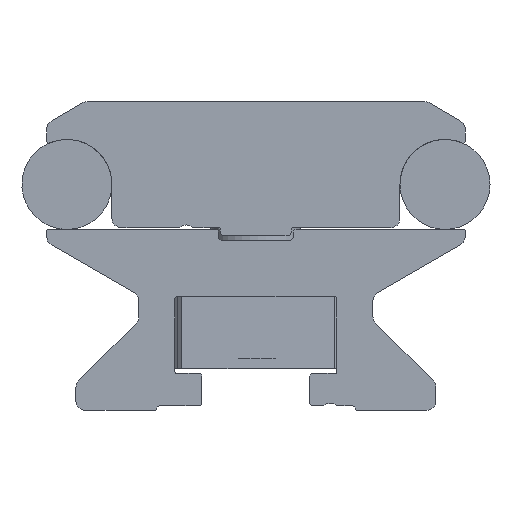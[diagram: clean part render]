
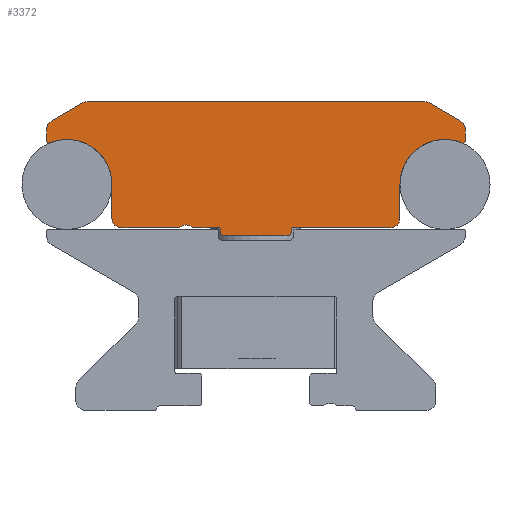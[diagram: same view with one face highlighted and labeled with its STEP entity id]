
A CAD part, left-side view. The second image highlights one B-rep face of the part: STEP entity #3372.
In plain terms, the highlighted planar face has unit normal (-1, 0, 0).
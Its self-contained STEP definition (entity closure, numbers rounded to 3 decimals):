
#105=CIRCLE('',#3601,0.5);
#106=CIRCLE('',#3603,0.5);
#121=CIRCLE('',#3659,1.);
#130=CIRCLE('',#3670,1.);
#132=CIRCLE('',#3674,1.);
#134=CIRCLE('',#3678,0.2);
#136=CIRCLE('',#3681,5.);
#138=CIRCLE('',#3685,1.);
#140=CIRCLE('',#3689,1.);
#148=CIRCLE('',#3699,0.2);
#152=CIRCLE('',#3709,0.2);
#161=CIRCLE('',#3720,1.);
#163=CIRCLE('',#3724,5.);
#165=CIRCLE('',#3727,0.2);
#167=CIRCLE('',#3731,1.);
#288=PLANE('',#3733);
#744=ORIENTED_EDGE('',*,*,#1531,.T.);
#745=ORIENTED_EDGE('',*,*,#1542,.T.);
#746=ORIENTED_EDGE('',*,*,#1545,.T.);
#747=ORIENTED_EDGE('',*,*,#1548,.T.);
#748=ORIENTED_EDGE('',*,*,#1551,.T.);
#749=ORIENTED_EDGE('',*,*,#1554,.T.);
#750=ORIENTED_EDGE('',*,*,#1557,.T.);
#751=ORIENTED_EDGE('',*,*,#1560,.T.);
#752=ORIENTED_EDGE('',*,*,#1563,.T.);
#753=ORIENTED_EDGE('',*,*,#1566,.T.);
#754=ORIENTED_EDGE('',*,*,#1569,.T.);
#755=ORIENTED_EDGE('',*,*,#1572,.T.);
#756=ORIENTED_EDGE('',*,*,#1578,.T.);
#757=ORIENTED_EDGE('',*,*,#1585,.T.);
#758=ORIENTED_EDGE('',*,*,#1587,.T.);
#759=ORIENTED_EDGE('',*,*,#1400,.T.);
#760=ORIENTED_EDGE('',*,*,#1591,.T.);
#761=ORIENTED_EDGE('',*,*,#1404,.T.);
#762=ORIENTED_EDGE('',*,*,#1407,.T.);
#763=ORIENTED_EDGE('',*,*,#1599,.T.);
#764=ORIENTED_EDGE('',*,*,#1606,.T.);
#765=ORIENTED_EDGE('',*,*,#1612,.T.);
#766=ORIENTED_EDGE('',*,*,#1615,.T.);
#767=ORIENTED_EDGE('',*,*,#1618,.T.);
#768=ORIENTED_EDGE('',*,*,#1621,.T.);
#769=ORIENTED_EDGE('',*,*,#1624,.T.);
#770=ORIENTED_EDGE('',*,*,#1627,.T.);
#771=ORIENTED_EDGE('',*,*,#1629,.T.);
#1400=EDGE_CURVE('',#1880,#1883,#105,.T.);
#1404=EDGE_CURVE('',#1884,#1887,#106,.T.);
#1407=EDGE_CURVE('',#1887,#1889,#2213,.T.);
#1531=EDGE_CURVE('',#1979,#1978,#121,.T.);
#1542=EDGE_CURVE('',#1978,#1988,#2284,.T.);
#1545=EDGE_CURVE('',#1988,#1990,#130,.T.);
#1548=EDGE_CURVE('',#1990,#1992,#2288,.T.);
#1551=EDGE_CURVE('',#1992,#1994,#132,.T.);
#1554=EDGE_CURVE('',#1994,#1996,#2292,.T.);
#1557=EDGE_CURVE('',#1996,#1998,#134,.T.);
#1560=EDGE_CURVE('',#1998,#2000,#136,.T.);
#1563=EDGE_CURVE('',#2000,#2002,#2297,.T.);
#1566=EDGE_CURVE('',#2002,#2004,#138,.T.);
#1569=EDGE_CURVE('',#2004,#2006,#2301,.T.);
#1572=EDGE_CURVE('',#2006,#2008,#140,.T.);
#1578=EDGE_CURVE('',#2008,#2010,#2304,.T.);
#1585=EDGE_CURVE('',#2010,#2012,#148,.T.);
#1587=EDGE_CURVE('',#2012,#1880,#2308,.T.);
#1591=EDGE_CURVE('',#1883,#1884,#2309,.T.);
#1599=EDGE_CURVE('',#1889,#2016,#152,.T.);
#1606=EDGE_CURVE('',#2016,#2018,#2316,.T.);
#1612=EDGE_CURVE('',#2018,#2020,#161,.T.);
#1615=EDGE_CURVE('',#2020,#2022,#2320,.T.);
#1618=EDGE_CURVE('',#2022,#2024,#163,.T.);
#1621=EDGE_CURVE('',#2024,#2026,#165,.T.);
#1624=EDGE_CURVE('',#2026,#2028,#2325,.T.);
#1627=EDGE_CURVE('',#2028,#2030,#167,.T.);
#1629=EDGE_CURVE('',#2030,#1979,#2328,.T.);
#1880=VERTEX_POINT('',#5024);
#1883=VERTEX_POINT('',#5033);
#1884=VERTEX_POINT('',#5037);
#1887=VERTEX_POINT('',#5046);
#1889=VERTEX_POINT('',#5052);
#1978=VERTEX_POINT('',#5451);
#1979=VERTEX_POINT('',#5453);
#1988=VERTEX_POINT('',#5473);
#1990=VERTEX_POINT('',#5479);
#1992=VERTEX_POINT('',#5485);
#1994=VERTEX_POINT('',#5491);
#1996=VERTEX_POINT('',#5497);
#1998=VERTEX_POINT('',#5503);
#2000=VERTEX_POINT('',#5509);
#2002=VERTEX_POINT('',#5515);
#2004=VERTEX_POINT('',#5521);
#2006=VERTEX_POINT('',#5527);
#2008=VERTEX_POINT('',#5533);
#2010=VERTEX_POINT('',#5542);
#2012=VERTEX_POINT('',#5555);
#2016=VERTEX_POINT('',#5590);
#2018=VERTEX_POINT('',#5600);
#2020=VERTEX_POINT('',#5609);
#2022=VERTEX_POINT('',#5615);
#2024=VERTEX_POINT('',#5621);
#2026=VERTEX_POINT('',#5627);
#2028=VERTEX_POINT('',#5633);
#2030=VERTEX_POINT('',#5639);
#2213=LINE('',#5053,#2491);
#2284=LINE('',#5474,#2562);
#2288=LINE('',#5486,#2566);
#2292=LINE('',#5498,#2570);
#2297=LINE('',#5516,#2575);
#2301=LINE('',#5528,#2579);
#2304=LINE('',#5543,#2582);
#2308=LINE('',#5559,#2586);
#2309=LINE('',#5569,#2587);
#2316=LINE('',#5601,#2594);
#2320=LINE('',#5616,#2598);
#2325=LINE('',#5634,#2603);
#2328=LINE('',#5643,#2606);
#2491=VECTOR('',#3998,1000.);
#2562=VECTOR('',#4195,1000.);
#2566=VECTOR('',#4207,1000.);
#2570=VECTOR('',#4219,1000.);
#2575=VECTOR('',#4238,1000.);
#2579=VECTOR('',#4250,1000.);
#2582=VECTOR('',#4269,1000.);
#2586=VECTOR('',#4285,1000.);
#2587=VECTOR('',#4294,1000.);
#2594=VECTOR('',#4321,1000.);
#2598=VECTOR('',#4339,1000.);
#2603=VECTOR('',#4358,1000.);
#2606=VECTOR('',#4369,1000.);
#2831=EDGE_LOOP('',(#744,#745,#746,#747,#748,#749,#750,#751,#752,#753,#754,
#755,#756,#757,#758,#759,#760,#761,#762,#763,#764,#765,#766,#767,#768,#769,
#770,#771));
#3059=FACE_BOUND('',#2831,.T.);
#3372=ADVANCED_FACE('',(#3059),#288,.T.);
#3601=AXIS2_PLACEMENT_3D('',#5034,#3986,#3987);
#3603=AXIS2_PLACEMENT_3D('',#5047,#3992,#3993);
#3659=AXIS2_PLACEMENT_3D('',#5452,#4174,#4175);
#3670=AXIS2_PLACEMENT_3D('',#5480,#4201,#4202);
#3674=AXIS2_PLACEMENT_3D('',#5492,#4213,#4214);
#3678=AXIS2_PLACEMENT_3D('',#5504,#4225,#4226);
#3681=AXIS2_PLACEMENT_3D('',#5510,#4232,#4233);
#3685=AXIS2_PLACEMENT_3D('',#5522,#4244,#4245);
#3689=AXIS2_PLACEMENT_3D('',#5534,#4256,#4257);
#3699=AXIS2_PLACEMENT_3D('',#5556,#4280,#4281);
#3709=AXIS2_PLACEMENT_3D('',#5591,#4307,#4308);
#3720=AXIS2_PLACEMENT_3D('',#5610,#4333,#4334);
#3724=AXIS2_PLACEMENT_3D('',#5622,#4345,#4346);
#3727=AXIS2_PLACEMENT_3D('',#5628,#4352,#4353);
#3731=AXIS2_PLACEMENT_3D('',#5640,#4364,#4365);
#3733=AXIS2_PLACEMENT_3D('',#5644,#4370,#4371);
#3986=DIRECTION('',(-1.,0.,0.));
#3987=DIRECTION('',(0.,-1.,0.));
#3992=DIRECTION('',(-1.,0.,0.));
#3993=DIRECTION('',(0.,1.,0.));
#3998=DIRECTION('',(0.,0.,1.));
#4174=DIRECTION('',(-1.,0.,0.));
#4175=DIRECTION('',(0.,1.,0.));
#4195=DIRECTION('',(0.,1.,0.));
#4201=DIRECTION('',(-1.,0.,0.));
#4202=DIRECTION('',(0.,1.,0.));
#4207=DIRECTION('',(0.,0.866,-0.5));
#4213=DIRECTION('',(-1.,0.,0.));
#4214=DIRECTION('',(0.,-1.,0.));
#4219=DIRECTION('',(0.,0.,-1.));
#4225=DIRECTION('',(-1.,0.,0.));
#4226=DIRECTION('',(0.,-1.,0.));
#4232=DIRECTION('',(1.,0.,0.));
#4233=DIRECTION('',(0.,1.,0.));
#4238=DIRECTION('',(0.,0.,-1.));
#4244=DIRECTION('',(-1.,0.,0.));
#4245=DIRECTION('',(0.,-1.,0.));
#4250=DIRECTION('',(0.,-1.,0.));
#4256=DIRECTION('',(1.,0.,0.));
#4257=DIRECTION('',(0.,1.,0.));
#4269=DIRECTION('',(0.,-1.,0.));
#4280=DIRECTION('',(1.,0.,0.));
#4281=DIRECTION('',(0.,1.,0.));
#4285=DIRECTION('',(0.,0.,-1.));
#4294=DIRECTION('',(0.,-1.,0.));
#4307=DIRECTION('',(1.,0.,0.));
#4308=DIRECTION('',(0.,1.,0.));
#4321=DIRECTION('',(0.,-1.,0.));
#4333=DIRECTION('',(-1.,0.,0.));
#4334=DIRECTION('',(0.,1.,0.));
#4339=DIRECTION('',(0.,0.,1.));
#4345=DIRECTION('',(1.,0.,0.));
#4346=DIRECTION('',(0.,1.,0.));
#4352=DIRECTION('',(-1.,0.,0.));
#4353=DIRECTION('',(0.,1.,0.));
#4358=DIRECTION('',(0.,0.,1.));
#4364=DIRECTION('',(-1.,0.,0.));
#4365=DIRECTION('',(0.,1.,0.));
#4369=DIRECTION('',(0.,0.866,0.5));
#4370=DIRECTION('',(-1.,0.,0.));
#4371=DIRECTION('',(0.,-1.,0.));
#5024=CARTESIAN_POINT('',(-1000.,153.34,114.744));
#5033=CARTESIAN_POINT('',(-1000.,152.84,114.244));
#5034=CARTESIAN_POINT('',(-1000.,152.84,114.744));
#5037=CARTESIAN_POINT('',(-1000.,145.94,114.244));
#5046=CARTESIAN_POINT('',(-1000.,145.44,114.744));
#5047=CARTESIAN_POINT('',(-1000.,145.94,114.744));
#5052=CARTESIAN_POINT('',(-1000.,145.44,114.944));
#5053=CARTESIAN_POINT('',(-1000.,145.44,114.744));
#5451=CARTESIAN_POINT('',(-1000.,130.64,129.144));
#5452=CARTESIAN_POINT('',(-1000.,130.64,128.144));
#5453=CARTESIAN_POINT('',(-1000.,130.14,129.01));
#5473=CARTESIAN_POINT('',(-1000.,168.14,129.144));
#5474=CARTESIAN_POINT('',(-1000.,130.64,129.144));
#5479=CARTESIAN_POINT('',(-1000.,168.64,129.01));
#5480=CARTESIAN_POINT('',(-1000.,168.14,128.144));
#5485=CARTESIAN_POINT('',(-1000.,172.14,126.989));
#5486=CARTESIAN_POINT('',(-1000.,168.64,129.01));
#5491=CARTESIAN_POINT('',(-1000.,172.64,126.123));
#5492=CARTESIAN_POINT('',(-1000.,171.64,126.123));
#5497=CARTESIAN_POINT('',(-1000.,172.64,124.723));
#5498=CARTESIAN_POINT('',(-1000.,172.64,126.123));
#5503=CARTESIAN_POINT('',(-1000.,172.361,124.539));
#5504=CARTESIAN_POINT('',(-1000.,172.44,124.723));
#5509=CARTESIAN_POINT('',(-1000.,165.39,119.944));
#5510=CARTESIAN_POINT('',(-1000.,170.39,119.944));
#5515=CARTESIAN_POINT('',(-1000.,165.39,116.144));
#5516=CARTESIAN_POINT('',(-1000.,165.39,119.944));
#5521=CARTESIAN_POINT('',(-1000.,164.39,115.144));
#5522=CARTESIAN_POINT('',(-1000.,164.39,116.144));
#5527=CARTESIAN_POINT('',(-1000.,157.854,115.144));
#5528=CARTESIAN_POINT('',(-1000.,164.39,115.144));
#5533=CARTESIAN_POINT('',(-1000.,156.426,115.144));
#5534=CARTESIAN_POINT('',(-1000.,157.14,114.444));
#5542=CARTESIAN_POINT('',(-1000.,153.54,115.144));
#5543=CARTESIAN_POINT('',(-1000.,156.426,115.144));
#5555=CARTESIAN_POINT('',(-1000.,153.34,114.944));
#5556=CARTESIAN_POINT('',(-1000.,153.54,114.944));
#5559=CARTESIAN_POINT('',(-1000.,153.34,114.944));
#5569=CARTESIAN_POINT('',(-1000.,152.84,114.244));
#5590=CARTESIAN_POINT('',(-1000.,145.24,115.144));
#5591=CARTESIAN_POINT('',(-1000.,145.24,114.944));
#5600=CARTESIAN_POINT('',(-1000.,134.39,115.144));
#5601=CARTESIAN_POINT('',(-1000.,145.24,115.144));
#5609=CARTESIAN_POINT('',(-1000.,133.39,116.144));
#5610=CARTESIAN_POINT('',(-1000.,134.39,116.144));
#5615=CARTESIAN_POINT('',(-1000.,133.39,119.944));
#5616=CARTESIAN_POINT('',(-1000.,133.39,116.144));
#5621=CARTESIAN_POINT('',(-1000.,126.419,124.539));
#5622=CARTESIAN_POINT('',(-1000.,128.39,119.944));
#5627=CARTESIAN_POINT('',(-1000.,126.14,124.723));
#5628=CARTESIAN_POINT('',(-1000.,126.34,124.723));
#5633=CARTESIAN_POINT('',(-1000.,126.14,126.123));
#5634=CARTESIAN_POINT('',(-1000.,126.14,124.723));
#5639=CARTESIAN_POINT('',(-1000.,126.64,126.989));
#5640=CARTESIAN_POINT('',(-1000.,127.14,126.123));
#5643=CARTESIAN_POINT('',(-1000.,126.64,126.989));
#5644=CARTESIAN_POINT('',(-1000.,130.64,128.144));
